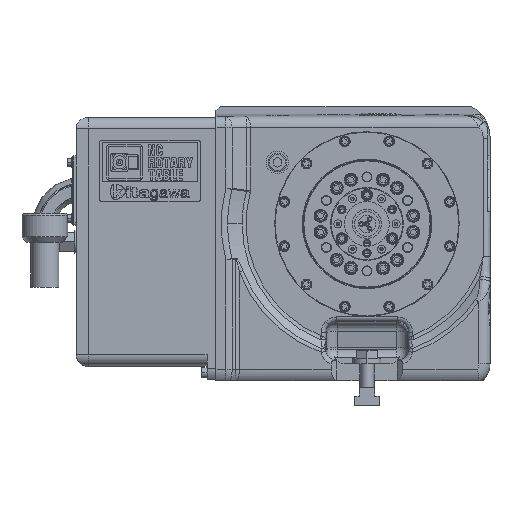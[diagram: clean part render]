
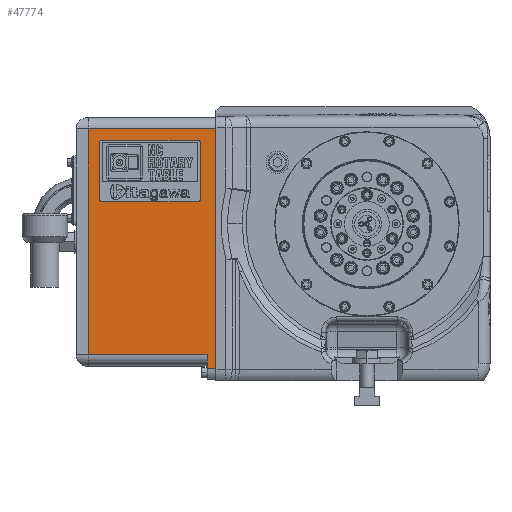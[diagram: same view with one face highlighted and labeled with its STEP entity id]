
A CAD part, top view. The second image highlights one B-rep face of the part: STEP entity #47774.
In plain terms, the highlighted planar face has unit normal (0, 0, 1).
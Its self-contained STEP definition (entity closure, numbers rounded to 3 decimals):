
#2871 = CARTESIAN_POINT ( 'NONE',  ( -8., 22., 0. ) ) ;
#6168 = DIRECTION ( 'NONE',  ( 0., 0., -1. ) ) ;
#20045 = EDGE_CURVE ( 'NONE', #51611, #121664, #122930, .T. ) ;
#22142 = CARTESIAN_POINT ( 'NONE',  ( -114., 22., 0. ) ) ;
#25782 = DIRECTION ( 'NONE',  ( 1., 0., 0. ) ) ;
#28206 = ORIENTED_EDGE ( 'NONE', *, *, #20045, .T. ) ;
#35011 = LINE ( 'NONE', #56836, #165057 ) ;
#41041 = EDGE_CURVE ( 'NONE', #48195, #137250, #73186, .T. ) ;
#42708 = EDGE_CURVE ( 'NONE', #121664, #141756, #112937, .T. ) ;
#46396 = ORIENTED_EDGE ( 'NONE', *, *, #41041, .T. ) ;
#47774 = ADVANCED_FACE ( 'NONE', ( #141892 ), #161745, .F. ) ;
#48195 = VERTEX_POINT ( 'NONE', #54282 ) ;
#51611 = VERTEX_POINT ( 'NONE', #2871 ) ;
#52836 = LINE ( 'NONE', #61155, #121888 ) ;
#54282 = CARTESIAN_POINT ( 'NONE',  ( -114., 224., 0. ) ) ;
#56836 = CARTESIAN_POINT ( 'NONE',  ( -8., 224., 0. ) ) ;
#57806 = CARTESIAN_POINT ( 'NONE',  ( -8., 0., 0. ) ) ;
#59929 = ORIENTED_EDGE ( 'NONE', *, *, #128646, .F. ) ;
#60179 = VECTOR ( 'NONE', #138950, 1000. ) ;
#61155 = CARTESIAN_POINT ( 'NONE',  ( 0., 0., 0. ) ) ;
#68000 = EDGE_LOOP ( 'NONE', ( #28206, #106368, #108959, #166165, #46396, #59929 ) ) ;
#69884 = DIRECTION ( 'NONE',  ( 1., 0., 0. ) ) ;
#73186 = LINE ( 'NONE', #73295, #107672 ) ;
#73295 = CARTESIAN_POINT ( 'NONE',  ( -114., 234., 0. ) ) ;
#73826 = DIRECTION ( 'NONE',  ( 0., -1., 0. ) ) ;
#77358 = CARTESIAN_POINT ( 'NONE',  ( -359.783, 10., 0. ) ) ;
#84232 = VECTOR ( 'NONE', #88826, 1000. ) ;
#88826 = DIRECTION ( 'NONE',  ( 0., -1., 0. ) ) ;
#94679 = LINE ( 'NONE', #125900, #60179 ) ;
#96971 = DIRECTION ( 'NONE',  ( 0., 1., 0. ) ) ;
#99995 = EDGE_CURVE ( 'NONE', #48195, #119054, #35011, .T. ) ;
#100330 = DIRECTION ( 'NONE',  ( 0., -1., 0. ) ) ;
#104784 = CARTESIAN_POINT ( 'NONE',  ( -8., 10., 0. ) ) ;
#106368 = ORIENTED_EDGE ( 'NONE', *, *, #42708, .T. ) ;
#107341 = CARTESIAN_POINT ( 'NONE',  ( 0., 10., 0. ) ) ;
#107672 = VECTOR ( 'NONE', #73826, 1000. ) ;
#108959 = ORIENTED_EDGE ( 'NONE', *, *, #113147, .F. ) ;
#112937 = LINE ( 'NONE', #77358, #143381 ) ;
#113147 = EDGE_CURVE ( 'NONE', #119054, #141756, #52836, .T. ) ;
#114971 = CARTESIAN_POINT ( 'NONE',  ( -8., 0., 0. ) ) ;
#118889 = CARTESIAN_POINT ( 'NONE',  ( 0., 224., 0. ) ) ;
#119054 = VERTEX_POINT ( 'NONE', #118889 ) ;
#121664 = VERTEX_POINT ( 'NONE', #104784 ) ;
#121888 = VECTOR ( 'NONE', #100330, 1000. ) ;
#122930 = LINE ( 'NONE', #114971, #84232 ) ;
#125900 = CARTESIAN_POINT ( 'NONE',  ( -8., 22., 0. ) ) ;
#128646 = EDGE_CURVE ( 'NONE', #51611, #137250, #94679, .T. ) ;
#129967 = AXIS2_PLACEMENT_3D ( 'NONE', #57806, #6168, #96971 ) ;
#137250 = VERTEX_POINT ( 'NONE', #22142 ) ;
#138950 = DIRECTION ( 'NONE',  ( -1., 0., 0. ) ) ;
#141756 = VERTEX_POINT ( 'NONE', #107341 ) ;
#141892 = FACE_OUTER_BOUND ( 'NONE', #68000, .T. ) ;
#143381 = VECTOR ( 'NONE', #25782, 1000. ) ;
#161745 = PLANE ( 'NONE',  #129967 ) ;
#165057 = VECTOR ( 'NONE', #69884, 1000. ) ;
#166165 = ORIENTED_EDGE ( 'NONE', *, *, #99995, .F. ) ;
